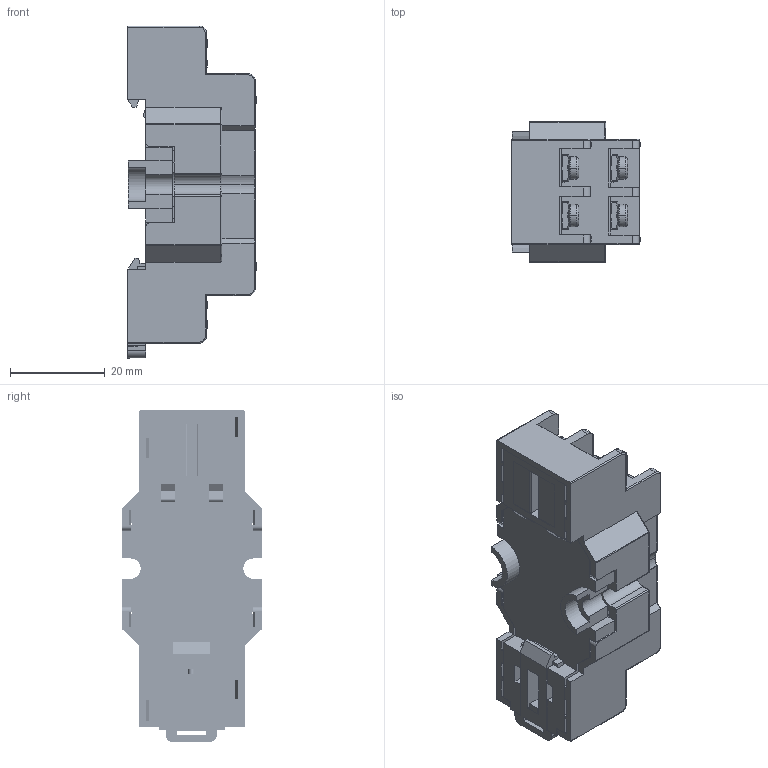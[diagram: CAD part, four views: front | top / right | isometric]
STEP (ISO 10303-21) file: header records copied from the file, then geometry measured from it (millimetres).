
FILE_DESCRIPTION (( 'STEP AP214' ), '1' );
FILE_NAME ('RN08-SOCKET.STEP', '2026-03-23T10:26:40', ( '' ), ( '' ), 'SwSTEP 2.0', 'SolidWorks 2025', '' );
FILE_SCHEMA (( 'AUTOMOTIVE_DESIGN' ));
Length unit declared in the file: millimetre
Products named in the file (1): RN08-SOCKET
Bounding box: 27.1 x 29.5 x 69.9 mm (x, y, z)
Volume: 24736.7 mm3; surface area: 26805 mm2
Topology: 33 solids, 35 shells, 3229 faces, 9506 edges, 6397 vertices
Faces by surface type: plane 1983, cylinder 766, cone 236, bspline 121, torus 111, sphere 12
Entity records: 128390 total; most frequent: CARTESIAN_POINT 45449, ORIENTED_EDGE 18956, DIRECTION 14766, EDGE_CURVE 9478, VERTEX_POINT 6397, LINE 5898, VECTOR 5898, AXIS2_PLACEMENT_3D 4434
